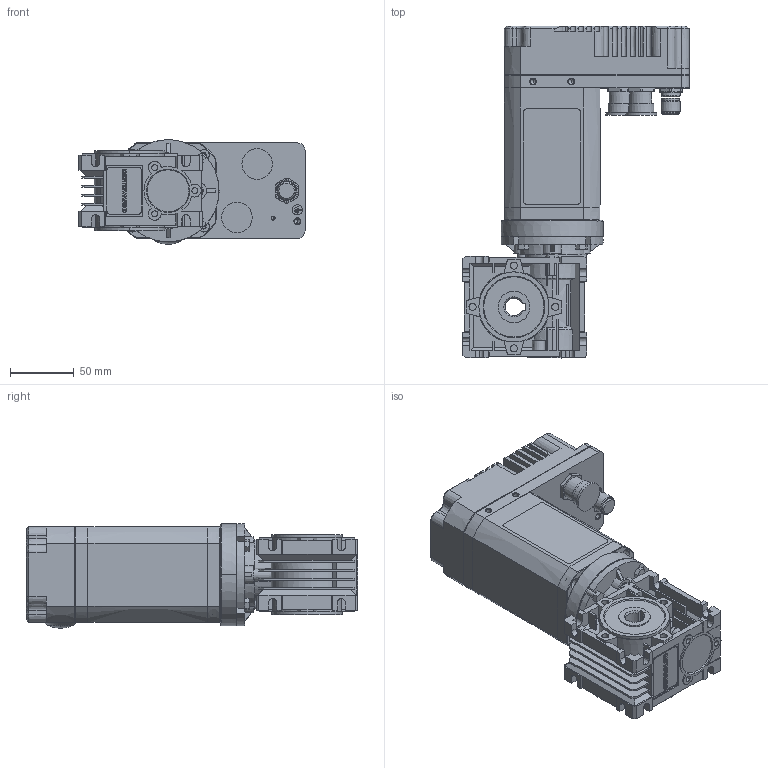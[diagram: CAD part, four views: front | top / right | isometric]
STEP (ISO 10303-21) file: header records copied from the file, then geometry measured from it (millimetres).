
FILE_DESCRIPTION((''),'2;1');
FILE_NAME('PRT0002','2018-07-10T',('alecma1'),('CROUZET-AUTOMATISMES'),'CREO PARAMETRIC BY PTC INC, 2017170','CREO PARAMETRIC BY PTC INC, 2017170','');
FILE_SCHEMA(('AP203_CONFIGURATION_CONTROLLED_3D_DESIGN_OF_MECHANICAL_PARTS_AND_ASSEMBLIES_MIM_LF { 1 0 10303 403 2 1 2 }'));
Products named in the file (1): PRT0002
Bounding box: 177.5 x 260.6 x 82 mm (x, y, z)
Surface area: 207202.5 mm2 (no closed solid volume)
Topology: 0 solids, 0 shells, 1220 faces, 6842 edges, 6823 vertices
Faces by surface type: bspline 1212, sphere 4, torus 4
Entity records: 130942 total; most frequent: CARTESIAN_POINT 58798, DIRECTION 10309, TRIMMED_CURVE 9199, VECTOR 8130, LINE 8130, DEFINITIONAL_REPRESENTATION 6812, PCURVE 6812, COMPOSITE_CURVE_SEGMENT 6812
